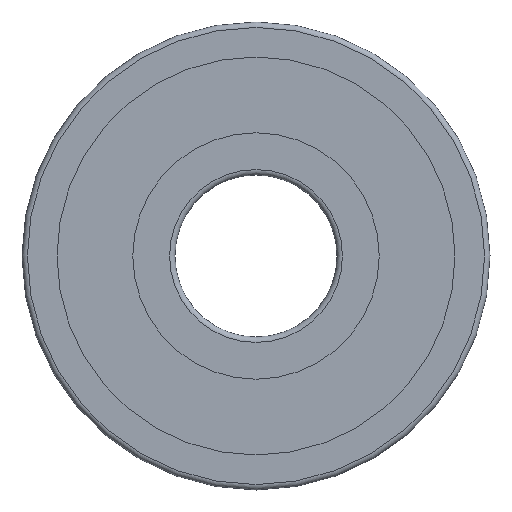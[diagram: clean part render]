
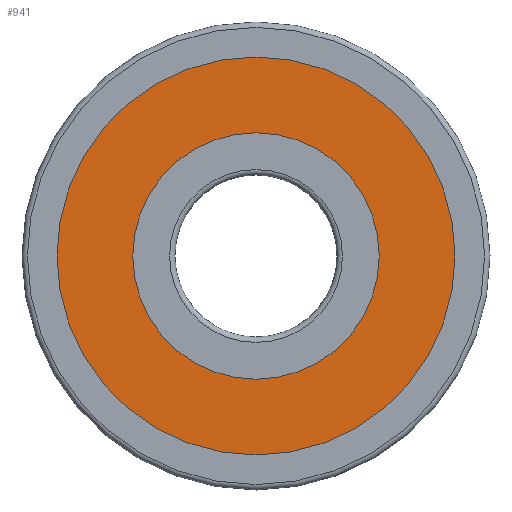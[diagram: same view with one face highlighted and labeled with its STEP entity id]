
A CAD part, left-side view. The second image highlights one B-rep face of the part: STEP entity #941.
In plain terms, the highlighted planar face has unit normal (-1, 0, 0).
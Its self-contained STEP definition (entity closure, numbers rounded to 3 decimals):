
#153=PLANE($,#1103);
#193=FACE_BOUND($,#332,.T.);
#194=FACE_BOUND($,#333,.T.);
#332=EDGE_LOOP($,(#874));
#333=EDGE_LOOP($,(#875));
#423=CIRCLE($,#1102,6.845);
#424=CIRCLE($,#1104,11.055);
#513=VERTEX_POINT($,#2398);
#514=VERTEX_POINT($,#2401);
#634=EDGE_CURVE($,#513,#513,#423,.T.);
#635=EDGE_CURVE($,#514,#514,#424,.T.);
#874=ORIENTED_EDGE($,*,*,#634,.T.);
#875=ORIENTED_EDGE($,*,*,#635,.F.);
#941=ADVANCED_FACE($,(#193,#194),#153,.T.);
#1102=AXIS2_PLACEMENT_3D($,#2399,#1419,#1420);
#1103=AXIS2_PLACEMENT_3D($,#2400,#1421,#1422);
#1104=AXIS2_PLACEMENT_3D($,#2402,#1423,#1424);
#1419=DIRECTION('center_axis',(1.,0.,0.));
#1420=DIRECTION('ref_axis',(0.,0.,-1.));
#1421=DIRECTION('center_axis',(-1.,0.,0.));
#1422=DIRECTION('ref_axis',(0.,0.,1.));
#1423=DIRECTION('center_axis',(1.,0.,0.));
#1424=DIRECTION('ref_axis',(0.,0.,-1.));
#2398=CARTESIAN_POINT('',(-4.,6.845,0.));
#2399=CARTESIAN_POINT('Origin',(-4.,0.,0.));
#2400=CARTESIAN_POINT('Origin',(-4.,11.055,0.));
#2401=CARTESIAN_POINT('',(-4.,11.055,0.));
#2402=CARTESIAN_POINT('Origin',(-4.,0.,0.));
